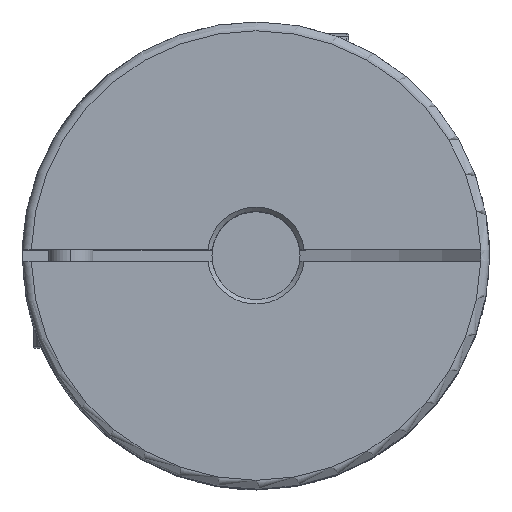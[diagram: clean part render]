
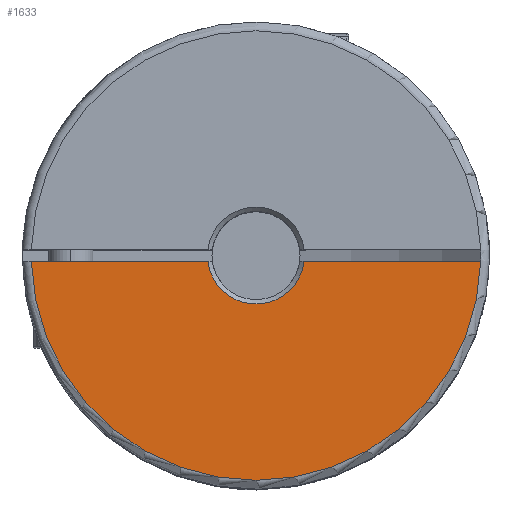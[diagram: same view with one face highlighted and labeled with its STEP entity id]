
A CAD part, top view. The second image highlights one B-rep face of the part: STEP entity #1633.
In plain terms, the highlighted planar face has unit normal (0, 0, 1).
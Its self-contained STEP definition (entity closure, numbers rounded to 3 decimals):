
#14 = CARTESIAN_POINT ( 'NONE',  ( -25.492, -0.65, 29.15 ) ) ;
#272 = ORIENTED_EDGE ( 'NONE', *, *, #2425, .T. ) ;
#324 = ORIENTED_EDGE ( 'NONE', *, *, #2424, .T. ) ;
#397 = ORIENTED_EDGE ( 'NONE', *, *, #2426, .F. ) ;
#421 = ORIENTED_EDGE ( 'NONE', *, *, #2432, .F. ) ;
#1633 = ADVANCED_FACE ( 'NONE', ( #3834 ), #5036, .F. ) ;
#1959 = VERTEX_POINT ( 'NONE', #14 ) ;
#2215 = VERTEX_POINT ( 'NONE', #7244 ) ;
#2424 = EDGE_CURVE ( 'NONE', #1959, #2215, #4236, .T. ) ;
#2425 = EDGE_CURVE ( 'NONE', #8068, #8069, #4248, .T. ) ;
#2426 = EDGE_CURVE ( 'NONE', #8068, #2215, #4250, .T. ) ;
#2432 = EDGE_CURVE ( 'NONE', #1959, #8069, #4258, .T. ) ;
#2756 = AXIS2_PLACEMENT_3D ( 'NONE', #5035, #5030, #5029 ) ;
#2936 = AXIS2_PLACEMENT_3D ( 'NONE', #8621, #8622, #8623 ) ;
#2937 = AXIS2_PLACEMENT_3D ( 'NONE', #8626, #8627, #8628 ) ;
#3834 = FACE_OUTER_BOUND ( 'NONE', #7882, .T. ) ;
#4236 = CIRCLE ( 'NONE', #2936, 25.5 ) ;
#4248 = CIRCLE ( 'NONE', #2937, 5.5 ) ;
#4250 = LINE ( 'NONE', #8614, #4252 ) ;
#4252 = VECTOR ( 'NONE', #8620, 1000. ) ;
#4258 = LINE ( 'NONE', #8645, #4259 ) ;
#4259 = VECTOR ( 'NONE', #8644, 1000. ) ;
#5029 = DIRECTION ( 'NONE',  ( -1., 0., 0. ) ) ;
#5030 = DIRECTION ( 'NONE',  ( 0., 0., -1. ) ) ;
#5035 = CARTESIAN_POINT ( 'NONE',  ( 0., 0., 29.15 ) ) ;
#5036 = PLANE ( 'NONE',  #2756 ) ;
#6346 = CARTESIAN_POINT ( 'NONE',  ( 5.461, -0.65, 29.15 ) ) ;
#6347 = CARTESIAN_POINT ( 'NONE',  ( -5.461, -0.65, 29.15 ) ) ;
#7244 = CARTESIAN_POINT ( 'NONE',  ( 25.492, -0.65, 29.15 ) ) ;
#7882 = EDGE_LOOP ( 'NONE', ( #397, #272, #421, #324 ) ) ;
#8068 = VERTEX_POINT ( 'NONE', #6346 ) ;
#8069 = VERTEX_POINT ( 'NONE', #6347 ) ;
#8614 = CARTESIAN_POINT ( 'NONE',  ( -26.5, -0.65, 29.15 ) ) ;
#8620 = DIRECTION ( 'NONE',  ( 1., 0., 0. ) ) ;
#8621 = CARTESIAN_POINT ( 'NONE',  ( 0., 0., 29.15 ) ) ;
#8622 = DIRECTION ( 'NONE',  ( 0., 0., 1. ) ) ;
#8623 = DIRECTION ( 'NONE',  ( -1., 0., 0. ) ) ;
#8626 = CARTESIAN_POINT ( 'NONE',  ( 0., 0., 29.15 ) ) ;
#8627 = DIRECTION ( 'NONE',  ( 0., 0., -1. ) ) ;
#8628 = DIRECTION ( 'NONE',  ( 0., 1., 0. ) ) ;
#8644 = DIRECTION ( 'NONE',  ( 1., 0., 0. ) ) ;
#8645 = CARTESIAN_POINT ( 'NONE',  ( -26.5, -0.65, 29.15 ) ) ;
